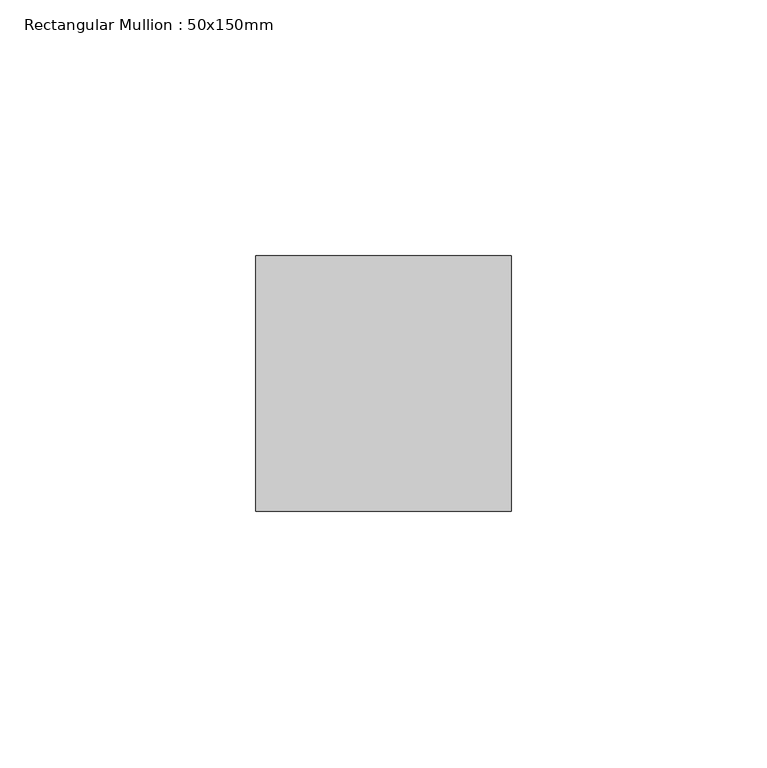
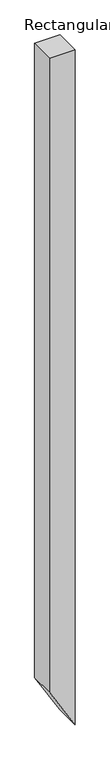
"""IFC4 building model written with IfcOpenShell, lengths in millimetres: member geometry, Rectangular Mullion : 50x150mm."""

from ifc_helpers import new_model, si_unit, frame, origin, place, context, project, spatial, polyline, outline, extrude, source, transform, mapped, element, save


def rectangular_mullion_50x150mm_4709a87d(model_context):
    return source(origin(), model_context, "Body", "SweptSolid", [
        extrude(outline(polyline([(0.0, 0.0), (0.0, -50.0), (-1310.4145056, -50.0), (-1394.4341731, 0.0), (0.0, 0.0)])), frame((0.0, -25.0, 0.0), z_axis=(0.0, 1.0, 0.0), x_axis=(0.0, 0.0, 1.0)), (0.0, 0.0, 1.0), 50.0),
    ])


if __name__ == "__main__":
    model = new_model("IFC4")
    model_context = context("Model", 3, world=origin())
    ifc_project = project(units=[si_unit("LENGTHUNIT", "METRE", prefix="MILLI")], contexts=[model_context])
    site = spatial("IfcSite", under=ifc_project)
    building = spatial("IfcBuilding", under=site)
    placement = place(None, origin())
    rectangular_mullion_50x150mm_shape = rectangular_mullion_50x150mm_4709a87d(model_context)
    element("IfcMember", 1, ObjectType="Rectangular Mullion : 50x150mm", at=placement, inside=building, context=model_context, shape_type="MappedRepresentation", body=[
        mapped(rectangular_mullion_50x150mm_shape, transform((0.0, 0.0, 0.0), x_axis=(1.0, 0.0, 0.0), y_axis=(0.0, 1.0, 0.0), z_axis=(0.0, 0.0, 1.0))),
    ])
    save(model, "model.ifc")
